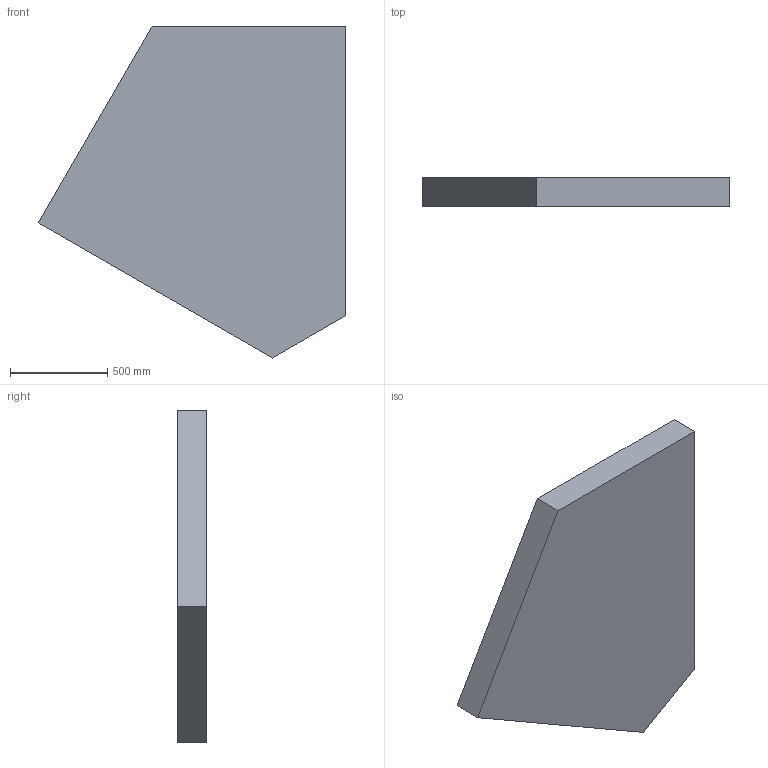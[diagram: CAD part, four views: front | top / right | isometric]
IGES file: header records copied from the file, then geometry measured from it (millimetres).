
Start section:  PTC IGES file: fr_uc_gap_plate.igs
Global section: file name: fr_uc_gap_plate.igs; native system: Pro/ENGINEER by Parametric Technology Corporation; preprocessor: 1999260; author: oshatz; organization: Unknown; date: 000922.101500; units: millimetre
Bounding box: 1579.11 x 150 x 1706.2 mm (x, y, z)
Surface area: 4701829.1 mm2 (no closed solid volume)
Topology: 0 solids, 0 shells, 7 faces, 30 edges, 30 vertices
Faces by surface type: bspline 7
